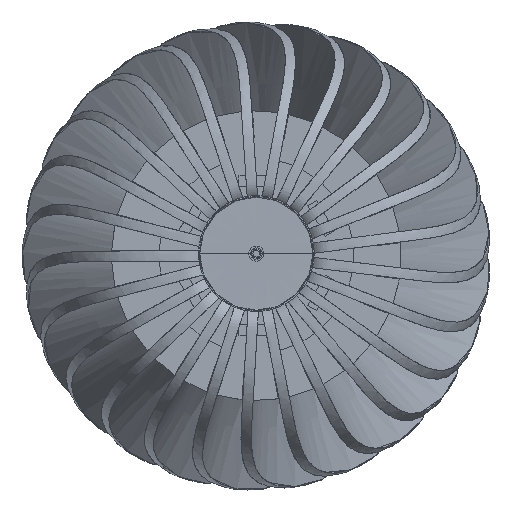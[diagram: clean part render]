
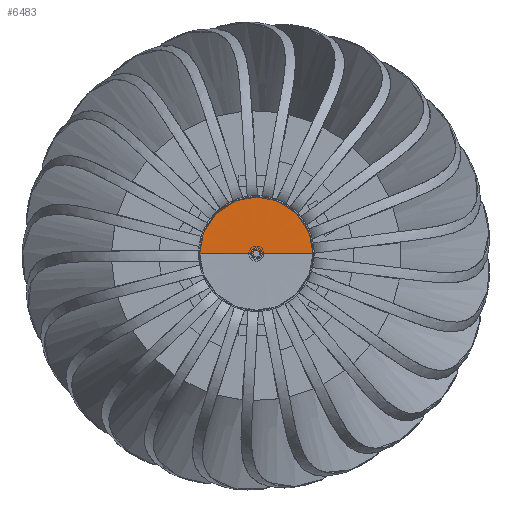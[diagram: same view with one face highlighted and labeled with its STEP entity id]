
A CAD part, top view. The second image highlights one B-rep face of the part: STEP entity #6483.
In plain terms, the highlighted free-form (B-spline) face has degree [2, 2] with [5, 7] control points.
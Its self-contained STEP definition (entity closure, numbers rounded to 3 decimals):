
#6006=(
BOUNDED_CURVE()
B_SPLINE_CURVE(2,(#92303,#92304,#92305,#92306,#92307,#92308,#92309),
 .UNSPECIFIED.,.F.,.F.)
B_SPLINE_CURVE_WITH_KNOTS((3,2,2,3),(75.142,98.142,
101.283,149.283),.UNSPECIFIED.)
CURVE()
GEOMETRIC_REPRESENTATION_ITEM()
RATIONAL_B_SPLINE_CURVE((1.,1.,1.,0.707,1.,1.,1.))
REPRESENTATION_ITEM('')
);
#6010=(
BOUNDED_CURVE()
B_SPLINE_CURVE(2,(#92323,#92324,#92325,#92326,#92327,#92328,#92329),
 .UNSPECIFIED.,.F.,.F.)
B_SPLINE_CURVE_WITH_KNOTS((3,2,2,3),(75.142,98.142,
101.283,149.283),.UNSPECIFIED.)
CURVE()
GEOMETRIC_REPRESENTATION_ITEM()
RATIONAL_B_SPLINE_CURVE((1.,1.,1.,0.707,1.,1.,1.))
REPRESENTATION_ITEM('')
);
#6011=(
BOUNDED_CURVE()
B_SPLINE_CURVE(2,(#92330,#92331,#92332,#92333,#92334),.UNSPECIFIED.,.F.,
 .F.)
B_SPLINE_CURVE_WITH_KNOTS((3,2,3),(157.08,235.619,314.159),
 .UNSPECIFIED.)
CURVE()
GEOMETRIC_REPRESENTATION_ITEM()
RATIONAL_B_SPLINE_CURVE((1.,0.707,1.,0.707,1.))
REPRESENTATION_ITEM('')
);
#6343=(
BOUNDED_SURFACE()
B_SPLINE_SURFACE(2,2,((#92219,#92220,#92221,#92222,#92223,#92224,#92225),
(#92226,#92227,#92228,#92229,#92230,#92231,#92232),(#92233,#92234,#92235,
#92236,#92237,#92238,#92239),(#92240,#92241,#92242,#92243,#92244,#92245,
#92246),(#92247,#92248,#92249,#92250,#92251,#92252,#92253)),
 .UNSPECIFIED.,.F.,.F.,.F.)
B_SPLINE_SURFACE_WITH_KNOTS((3,2,3),(3,2,2,3),(157.08,235.619,
314.159),(75.142,98.142,101.283,149.283),
 .UNSPECIFIED.)
GEOMETRIC_REPRESENTATION_ITEM()
RATIONAL_B_SPLINE_SURFACE(((1.,1.,1.,0.707,1.,1.,1.),(0.707,
0.707,0.707,0.5,0.707,
0.707,0.707),(1.,1.,1.,0.707,1.,1.,
1.),(0.707,0.707,0.707,0.5,
0.707,0.707,0.707),(1.,1.,1.,0.707,
1.,1.,1.)))
REPRESENTATION_ITEM('')
SURFACE()
);
#6483=ADVANCED_FACE('',(#6632),#6343,.T.);
#6632=FACE_OUTER_BOUND('',#6786,.T.);
#6786=EDGE_LOOP('',(#7428,#7429,#7430));
#7428=ORIENTED_EDGE('',*,*,#7850,.T.);
#7429=ORIENTED_EDGE('',*,*,#7845,.T.);
#7430=ORIENTED_EDGE('',*,*,#7849,.F.);
#7845=EDGE_CURVE('',#11034,#11033,#6006,.T.);
#7849=EDGE_CURVE('',#11036,#11033,#6010,.T.);
#7850=EDGE_CURVE('',#11036,#11034,#6011,.T.);
#11033=VERTEX_POINT('',#92291);
#11034=VERTEX_POINT('',#92292);
#11036=VERTEX_POINT('',#92294);
#92219=CARTESIAN_POINT('',(46.,0.,2521.996));
#92220=CARTESIAN_POINT('',(46.,0.,2510.496));
#92221=CARTESIAN_POINT('',(46.,0.,2498.996));
#92222=CARTESIAN_POINT('',(46.,0.,2497.996));
#92223=CARTESIAN_POINT('',(45.,0.,2497.996));
#92224=CARTESIAN_POINT('',(21.,0.,2497.996));
#92225=CARTESIAN_POINT('',(-3.,0.,2497.996));
#92226=CARTESIAN_POINT('',(46.,49.,2521.996));
#92227=CARTESIAN_POINT('',(46.,49.,2510.496));
#92228=CARTESIAN_POINT('',(46.,49.,2498.996));
#92229=CARTESIAN_POINT('',(46.,49.,2497.996));
#92230=CARTESIAN_POINT('',(45.,48.,2497.996));
#92231=CARTESIAN_POINT('',(21.,24.,2497.996));
#92232=CARTESIAN_POINT('',(-3.,0.,2497.996));
#92233=CARTESIAN_POINT('',(-3.,49.,2521.996));
#92234=CARTESIAN_POINT('',(-3.,49.,2510.496));
#92235=CARTESIAN_POINT('',(-3.,49.,2498.996));
#92236=CARTESIAN_POINT('',(-3.,49.,2497.996));
#92237=CARTESIAN_POINT('',(-3.,48.,2497.996));
#92238=CARTESIAN_POINT('',(-3.,24.,2497.996));
#92239=CARTESIAN_POINT('',(-3.,0.,2497.996));
#92240=CARTESIAN_POINT('',(-52.,49.,2521.996));
#92241=CARTESIAN_POINT('',(-52.,49.,2510.496));
#92242=CARTESIAN_POINT('',(-52.,49.,2498.996));
#92243=CARTESIAN_POINT('',(-52.,49.,2497.996));
#92244=CARTESIAN_POINT('',(-51.,48.,2497.996));
#92245=CARTESIAN_POINT('',(-27.,24.,2497.996));
#92246=CARTESIAN_POINT('',(-3.,0.,2497.996));
#92247=CARTESIAN_POINT('',(-52.,0.,2521.996));
#92248=CARTESIAN_POINT('',(-52.,0.,2510.496));
#92249=CARTESIAN_POINT('',(-52.,0.,2498.996));
#92250=CARTESIAN_POINT('',(-52.,0.,2497.996));
#92251=CARTESIAN_POINT('',(-51.,0.,2497.996));
#92252=CARTESIAN_POINT('',(-27.,0.,2497.996));
#92253=CARTESIAN_POINT('',(-3.,0.,2497.996));
#92291=CARTESIAN_POINT('',(-3.,0.,2497.996));
#92292=CARTESIAN_POINT('',(-52.,0.,2521.996));
#92294=CARTESIAN_POINT('',(46.,0.,2521.996));
#92303=CARTESIAN_POINT('',(-52.,0.,2521.996));
#92304=CARTESIAN_POINT('',(-52.,0.,2510.496));
#92305=CARTESIAN_POINT('',(-52.,0.,2498.996));
#92306=CARTESIAN_POINT('',(-52.,0.,2497.996));
#92307=CARTESIAN_POINT('',(-51.,0.,2497.996));
#92308=CARTESIAN_POINT('',(-27.,0.,2497.996));
#92309=CARTESIAN_POINT('',(-3.,0.,2497.996));
#92323=CARTESIAN_POINT('',(46.,0.,2521.996));
#92324=CARTESIAN_POINT('',(46.,0.,2510.496));
#92325=CARTESIAN_POINT('',(46.,0.,2498.996));
#92326=CARTESIAN_POINT('',(46.,0.,2497.996));
#92327=CARTESIAN_POINT('',(45.,0.,2497.996));
#92328=CARTESIAN_POINT('',(21.,0.,2497.996));
#92329=CARTESIAN_POINT('',(-3.,0.,2497.996));
#92330=CARTESIAN_POINT('',(46.,0.,2521.996));
#92331=CARTESIAN_POINT('',(46.,49.,2521.996));
#92332=CARTESIAN_POINT('',(-3.,49.,2521.996));
#92333=CARTESIAN_POINT('',(-52.,49.,2521.996));
#92334=CARTESIAN_POINT('',(-52.,0.,2521.996));
